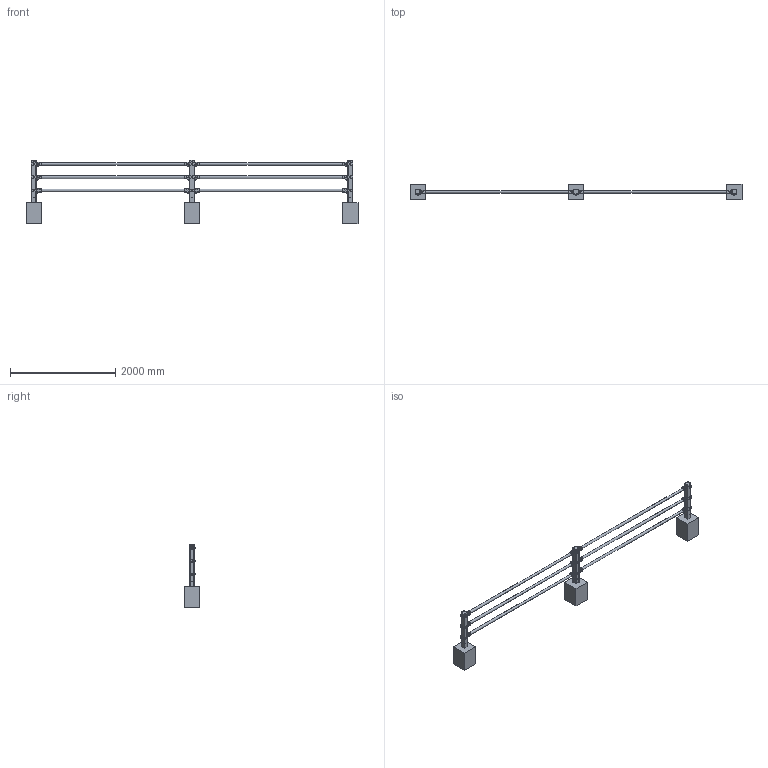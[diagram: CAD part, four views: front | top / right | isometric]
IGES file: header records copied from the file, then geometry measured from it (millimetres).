
Global section: file name: 07ロッドフェンスRF12-コーナータイプ,35HAutoCAD 2025 - 日本語 (Japa; native system: nese); preprocessor: Autodesk Translation Framework DWG producer (atf_dwg_producer); organization: unknown; date: 20260406.110324; units: millimetre
Bounding box: 6300 x 300 x 1200 mm (x, y, z)
Volume: 126762907 mm3; surface area: 11062913.1 mm2
Topology: 261 solids, 261 shells, 4782 faces, 11862 edges, 7665 vertices
Faces by surface type: bspline 4782
